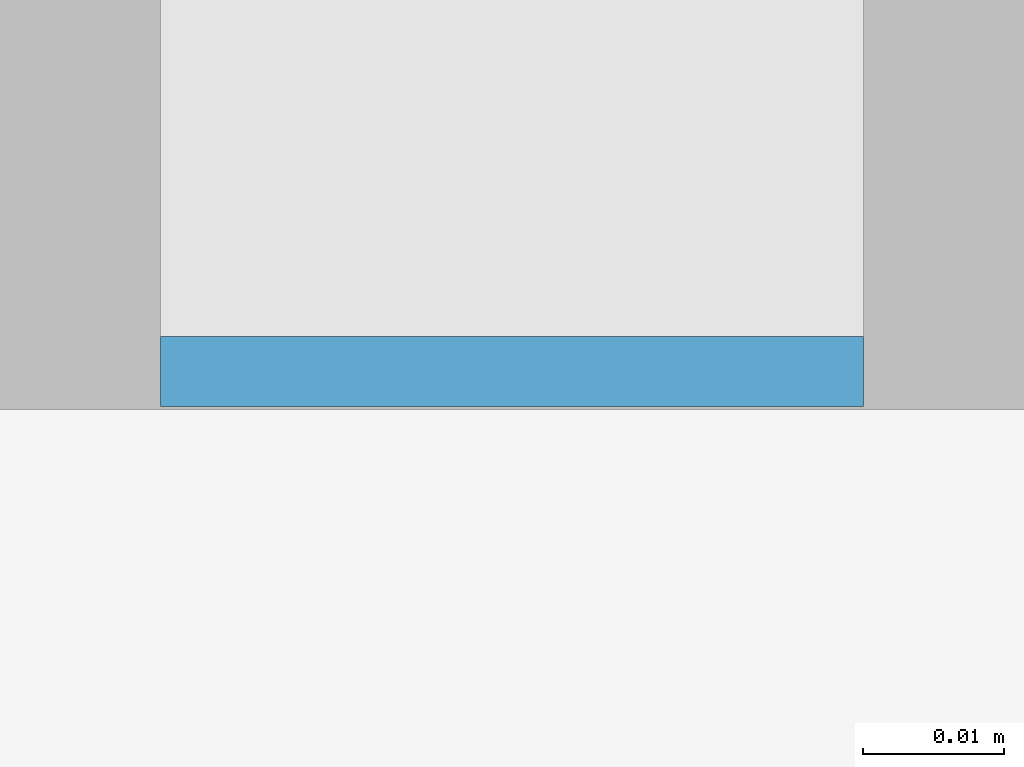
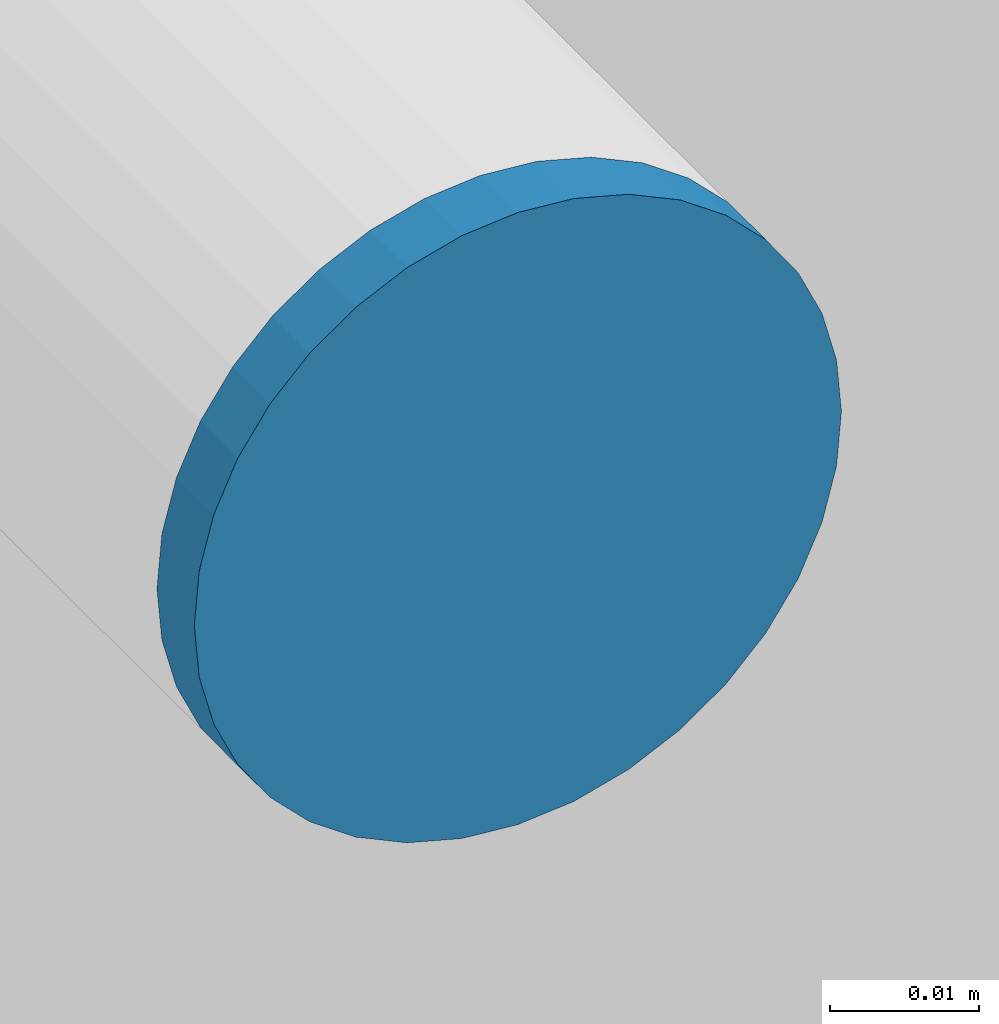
# One storey, part 36 of 347: 1 member, 1 element without a shape of its own.
"""IFC2X3 building model written with IfcOpenShell, lengths in millimetres."""

import ifcopenshell
import ifcopenshell.guid

model = None  # the IFC model being written
_history = None  # IfcOwnerHistory: only IFC2X3 demands one
_inside = {}  # id of a spatial element -> (the spatial element, [elements in it])
_under = {}  # id of a project, library or spatial element -> (it, [spatial elements below it])
_declared = {}  # id of a project -> (the project, [libraries it declares])
_typed = {}  # id of a type object -> (the type object, [elements of that type])
_made_of = {}  # id of a material, layer set ... -> (it, [elements and type objects made of it])


def new_model(schema):
    """Start an empty IFC model of exactly this schema.

    Asked for "IFC4X3", IfcOpenShell would pick the latest addendum, in which some entities
    have other attributes; the version numbers below select the first issue.
    IFC2X3 requires an IfcOwnerHistory on every rooted entity: one is made here for all.
    """
    global model, _history
    if schema == "IFC4X3":
        model = ifcopenshell.file(schema_version=(4, 3, 0, 0))
    else:
        model = ifcopenshell.file(schema=schema)
    _inside.clear()
    _under.clear()
    _declared.clear()
    _typed.clear()
    _made_of.clear()
    _history = None
    if model.schema == "IFC2X3":
        org = make("IfcOrganization", Name="unknown")
        user = make(
            "IfcPersonAndOrganization",
            ThePerson=make("IfcPerson", FamilyName="unknown"),
            TheOrganization=org,
        )
        app = make(
            "IfcApplication",
            ApplicationDeveloper=org,
            Version="unknown",
            ApplicationFullName="unknown",
            ApplicationIdentifier="unknown",
        )
        _history = make(
            "IfcOwnerHistory",
            OwningUser=user,
            OwningApplication=app,
            ChangeAction="ADDED",
            CreationDate=0,
        )
    return model


def make(cls, **values):
    """One entity of the class cls with the attributes given. An attribute that is None is left unset."""
    return model.create_entity(
        cls, **{name: value for name, value in values.items() if value is not None}
    )


def entity(cls, *values):
    """Any entity or typed value of the class cls, its attributes in the order of the schema. None: left unset."""
    e = model.create_entity(cls)
    for i, value in enumerate(values):
        if value is not None:
            e[i] = value
    return e


def rooted(cls, **values):
    """An entity with a GlobalId (a new one), such as an element, a storey or a relation."""
    return make(cls, GlobalId=ifcopenshell.guid.new(), OwnerHistory=_history, **values)


def si_unit(unit_type, name, prefix=None):
    """IfcSIUnit, for example si_unit("LENGTHUNIT", "METRE", prefix="MILLI")."""
    return make("IfcSIUnit", UnitType=unit_type, Prefix=prefix, Name=name)


def converted_unit(unit_type, name, factor, base, dimensions=None, offset=None):
    """IfcConversionBasedUnit, such as the inch: factor (a typed value) times the base unit."""
    return make(
        "IfcConversionBasedUnit"
        if offset is None
        else "IfcConversionBasedUnitWithOffset",
        ConversionOffset=offset,
        Dimensions=None
        if dimensions is None
        else entity("IfcDimensionalExponents", *dimensions),
        UnitType=unit_type,
        Name=name,
        ConversionFactor=make(
            "IfcMeasureWithUnit", ValueComponent=factor, UnitComponent=base
        ),
    )


def derived_unit(unit_type, elements):
    """IfcDerivedUnit: a product of units, each with its exponent."""
    return make(
        "IfcDerivedUnit",
        Elements=[
            make("IfcDerivedUnitElement", Unit=unit, Exponent=power)
            for unit, power in elements
        ],
        UnitType=unit_type,
    )


def money_unit(currency):
    """IfcMonetaryUnit."""
    return make("IfcMonetaryUnit", Currency=currency)


def assignment(units):
    """IfcUnitAssignment: the units of a project."""
    return None if units is None else make("IfcUnitAssignment", Units=units)


def point(xyz):
    """IfcCartesianPoint."""
    return None if xyz is None else make("IfcCartesianPoint", Coordinates=xyz)


def direction(xyz):
    """IfcDirection."""
    return None if xyz is None else make("IfcDirection", DirectionRatios=xyz)


def frame(location, z_axis=None, x_axis=None):
    """IfcAxis2Placement3D, a coordinate frame: its origin and axes. An axis left out is left unset."""
    return make(
        "IfcAxis2Placement3D",
        Location=point(location),
        Axis=direction(z_axis),
        RefDirection=direction(x_axis),
    )


def origin_with_axes():
    """The frame at (0, 0, 0) with the z axis (0, 0, 1) and the x axis (1, 0, 0) written out."""
    return frame((0.0, 0.0, 0.0), z_axis=(0.0, 0.0, 1.0), x_axis=(1.0, 0.0, 0.0))


def place(relative_to, where):
    """IfcLocalPlacement: puts the frame where relative to a parent placement (None: the world)."""
    return make(
        "IfcLocalPlacement", PlacementRelTo=relative_to, RelativePlacement=where
    )


def context(
    kind, dimensions, precision=None, world=None, true_north=None, identifier=None
):
    """IfcGeometricRepresentationContext, for example the 3D "Model" context."""
    return make(
        "IfcGeometricRepresentationContext",
        ContextIdentifier=identifier,
        ContextType=kind,
        CoordinateSpaceDimension=dimensions,
        Precision=precision,
        WorldCoordinateSystem=world,
        TrueNorth=true_north,
    )


def subcontext(parent, identifier, kind, view, scale=None):
    """IfcGeometricRepresentationSubContext, for example "Body" below "Model"."""
    return make(
        "IfcGeometricRepresentationSubContext",
        ContextIdentifier=identifier,
        ContextType=kind,
        ParentContext=parent,
        TargetScale=scale,
        TargetView=view,
    )


def project(units=None, contexts=None):
    """IfcProject with its units and contexts."""
    return rooted(
        "IfcProject",
        Name="project",
        RepresentationContexts=contexts,
        UnitsInContext=assignment(units),
    )


def spatial(cls, under=None, at=None, **own):
    """A site, building, storey or space (cls), placed at a placement, below another one or the project."""
    s = rooted(cls, ObjectPlacement=at, **own)
    if under is not None:
        _under.setdefault(under.id(), (under, []))[1].append(s)
    return s


def faces_of(points, faces, orient=None, outer=None):
    """IfcFace entities. A face is a list of loops; a loop is a list of indices into points, from 0.

    orient and outer hold one flag for each loop. By default every Orientation is true, the
    first loop of a face is its IfcFaceOuterBound and the others are IfcFaceBound.
    """
    made = []
    for i, loops in enumerate(faces):
        bounds = []
        for j, loop in enumerate(loops):
            is_outer = j == 0 if outer is None else outer[i][j]
            bounds.append(
                make(
                    "IfcFaceOuterBound" if is_outer else "IfcFaceBound",
                    Bound=make("IfcPolyLoop", Polygon=[points[k] for k in loop]),
                    Orientation=True if orient is None else orient[i][j],
                )
            )
        made.append(make("IfcFace", Bounds=bounds))
    return made


def faceted_brep(points, faces, orient=None, outer=None, voids=None):
    """IfcFacetedBrep: a solid bounded by flat faces; with voids (closed shells), ...WithVoids."""
    shared = [point(p) for p in points]
    hull = make("IfcClosedShell", CfsFaces=faces_of(shared, faces, orient, outer))
    if voids is None:
        return make("IfcFacetedBrep", Outer=hull)
    return make(
        "IfcFacetedBrepWithVoids",
        Outer=hull,
        Voids=[
            make(cls, CfsFaces=faces_of(shared, fs, o, b)) for cls, fs, o, b in voids
        ],
    )


def shape(context_of_items, identifier, shape_type, items):
    """IfcShapeRepresentation: the items that make up one representation, for example the "Body"."""
    return make(
        "IfcShapeRepresentation",
        ContextOfItems=context_of_items,
        RepresentationIdentifier=identifier,
        RepresentationType=shape_type,
        Items=items,
    )


def material(Name=None, Category=None):
    """IfcMaterial."""
    return make("IfcMaterial", Name=Name, Category=Category)


def made_of(thing, what):
    """Note that an element or type object is made of a material, layer set ...; save() writes the relation."""
    if what is not None:
        _made_of.setdefault(what.id(), (what, []))[1].append(thing)
    return thing


def type_object(cls, material=None, **own):
    """A type object (cls), such as IfcWallType, which elements share."""
    return made_of(rooted(cls, **own), material)


def element(
    cls,
    number,
    at=None,
    inside=None,
    cuts=None,
    type_object=None,
    material=None,
    context=None,
    identifier="Body",
    shape_type=None,
    held_by="IfcProductDefinitionShape",
    body=None,
    shapes=None,
    **own,
):
    """One element of the class cls, such as IfcWall. Its Tag is "e" and its number.

    at: its placement. inside: the storey or other place that contains it. cuts: it is an
    opening in that element (IfcRelVoidsElement). A single representation is given by context,
    identifier, shape_type and body (its items); several are given by shapes. held_by: the class
    of the entity that holds the representations. save() writes the other relations.
    """
    e = rooted(cls, Tag="e%d" % number, ObjectPlacement=at, **own)
    if body is not None:
        shapes = [shape(context, identifier, shape_type, body)]
    if shapes is not None:
        e.Representation = make(held_by, Representations=shapes)
    if inside is not None:
        _inside.setdefault(inside.id(), (inside, []))[1].append(e)
    if cuts is not None:
        rooted(
            "IfcRelVoidsElement", RelatingBuildingElement=cuts, RelatedOpeningElement=e
        )
    if type_object is not None:
        _typed.setdefault(type_object.id(), (type_object, []))[1].append(e)
    return made_of(e, material)


def aggregate(whole, parts):
    """IfcRelAggregates: a whole, such as a stair, and the parts it consists of."""
    return rooted("IfcRelAggregates", RelatingObject=whole, RelatedObjects=parts)


def save(model, path):
    """Write the relations noted so far, then the file.

    IfcRelAggregates (storeys below a building ...), IfcRelContainedInSpatialStructure (elements
    in a storey), IfcRelDefinesByType, IfcRelAssociatesMaterial and IfcRelDeclares: one each for
    every whole, place, type object, material and project.
    """
    for whole, parts in _under.values():
        aggregate(whole, parts)
    for where, things in _inside.values():
        rooted(
            "IfcRelContainedInSpatialStructure",
            RelatedElements=things,
            RelatingStructure=where,
        )
    for kind, things in _typed.values():
        rooted("IfcRelDefinesByType", RelatedObjects=things, RelatingType=kind)
    for what, things in _made_of.values():
        rooted("IfcRelAssociatesMaterial", RelatedObjects=things, RelatingMaterial=what)
    for by, libraries in _declared.values():
        rooted("IfcRelDeclares", RelatingContext=by, RelatedDefinitions=libraries)
    model.write(path)


model = new_model("IFC2X3")

# Units and contexts
model_context = context("Model", 3, precision=0.01, world=origin_with_axes(), true_north=direction((0.0, 1.0)))
plan_context = context("Plan", 3, precision=0.01, world=origin_with_axes(), true_north=direction((0.0, 1.0)))
body_context = subcontext(model_context, "Body", "Model", "MODEL_VIEW")
ifc_project = project(units=[si_unit("LENGTHUNIT", "METRE", prefix="MILLI"), si_unit("AREAUNIT", "SQUARE_METRE"), si_unit("VOLUMEUNIT", "CUBIC_METRE"), converted_unit("PLANEANGLEUNIT", "DEGREE", entity("IfcPlaneAngleMeasure", 0.0174532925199), si_unit("PLANEANGLEUNIT", "RADIAN"), dimensions=[0, 0, 0, 0, 0, 0, 0]), money_unit("EUR"), converted_unit("TIMEUNIT", "Year", entity("IfcTimeMeasure", 31556926.0), si_unit("TIMEUNIT", "SECOND"), dimensions=[0, 0, 1, 0, 0, 0, 0]), si_unit("MASSUNIT", "GRAM", prefix="KILO"), si_unit("THERMODYNAMICTEMPERATUREUNIT", "DEGREE_CELSIUS"), si_unit("LUMINOUSINTENSITYUNIT", "LUMEN"), si_unit("ENERGYUNIT", "JOULE", prefix="MEGA"), derived_unit("THERMALCONDUCTANCEUNIT", [(si_unit("POWERUNIT", "WATT"), 1), (si_unit("LENGTHUNIT", "METRE"), -1), (si_unit("THERMODYNAMICTEMPERATUREUNIT", "KELVIN"), -1)]), derived_unit("SPECIFICHEATCAPACITYUNIT", [(si_unit("ENERGYUNIT", "JOULE"), 1), (si_unit("MASSUNIT", "GRAM", prefix="KILO"), -1), (si_unit("THERMODYNAMICTEMPERATUREUNIT", "KELVIN"), -1)]), derived_unit("MASSDENSITYUNIT", [(si_unit("MASSUNIT", "GRAM", prefix="KILO"), 1), (si_unit("VOLUMEUNIT", "CUBIC_METRE"), -1)])], contexts=[model_context, plan_context])

# Site, building, storey
site_placement = place(None, origin_with_axes())
site = spatial("IfcSite", under=ifc_project, at=site_placement, Name="Site", CompositionType="ELEMENT")
building_placement = place(site_placement, origin_with_axes())
building = spatial("IfcBuilding", under=site, at=building_placement, Name="Naam gebouw", CompositionType="ELEMENT")
storey_placement = place(building_placement, origin_with_axes())
storey = spatial("IfcBuildingStorey", under=building, at=storey_placement, Name="begane grond", CompositionType="ELEMENT", Elevation=0.0)

# Railing, member
railing_type = type_object("IfcRailingType", Name="Railing Type", PredefinedType="NOTDEFINED")
railing_placement = place(storey_placement, frame((41575.0, 36499.9999823, 72.0000018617), z_axis=(0.0, 0.0, 1.0), x_axis=(1.0, 0.0, 0.0)))
railing = element("IfcRailing", 1, at=railing_placement, inside=storey, type_object=railing_type, Name="_Reling-x", PredefinedType="NOTDEFINED")
ifc_material = material(Name="Hout AFW")
member_type = type_object("IfcMemberType", Name="IfcMember", PredefinedType="USERDEFINED")
member_placement = place(railing_placement, origin_with_axes())
member = element("IfcMember", 2, at=member_placement, type_object=member_type, material=ifc_material, Name="_Einde handregel-x", context=body_context, shape_type="Brep", body=[
    faceted_brep([(-50.0, -6419.78069901, 4762.99999814), (-50.3798061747, -6419.78069901, 4767.34120258), (-50.3798061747, -6424.78069901, 4767.34120258), (-50.0, -6424.78069901, 4762.99999814), (-50.3798061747, -6419.78069901, 4758.6587937), (-51.5076844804, -6419.78069901, 4754.44949456), (-53.3493649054, -6419.78069901, 4750.49999814), (-55.848888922, -6419.78069901, 4746.9303079), (-58.9303097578, -6419.78069901, 4743.84888706), (-62.5, -6419.78069901, 4741.34936304), (-66.4494964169, -6419.78069901, 4739.50768262), (-70.6587955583, -6419.78069901, 4738.37980431), (-75.0, -6419.78069901, 4737.99999814), (-79.3412044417, -6419.78069901, 4738.37980431), (-83.5505035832, -6419.78069901, 4739.50768262), (-87.5, -6419.78069901, 4741.34936304), (-91.0696902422, -6419.78069901, 4743.84888706), (-94.151111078, -6419.78069901, 4746.9303079), (-96.6506350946, -6419.78069901, 4750.49999814), (-98.4923155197, -6419.78069901, 4754.44949456), (-99.6201938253, -6419.78069901, 4758.6587937), (-100.0, -6419.78069901, 4762.99999814), (-99.6201938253, -6419.78069901, 4767.34120258), (-98.4923155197, -6419.78069901, 4771.55050172), (-96.6506350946, -6419.78069901, 4775.49999814), (-94.151111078, -6419.78069901, 4779.06968838), (-91.0696902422, -6419.78069901, 4782.15110922), (-87.5, -6419.78069901, 4784.65063323), (-83.5505035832, -6419.78069901, 4786.49231366), (-79.3412044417, -6419.78069901, 4787.62019196), (-75.0, -6419.78069901, 4787.99999814), (-70.6587955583, -6419.78069901, 4787.62019196), (-66.4494964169, -6419.78069901, 4786.49231366), (-62.5, -6419.78069901, 4784.65063323), (-58.9303097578, -6419.78069901, 4782.15110922), (-55.848888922, -6419.78069901, 4779.06968838), (-53.3493649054, -6419.78069901, 4775.49999814), (-51.5076844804, -6419.78069901, 4771.55050172), (-51.5076844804, -6424.78069901, 4771.55050172), (-53.3493649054, -6424.78069901, 4775.49999814), (-55.848888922, -6424.78069901, 4779.06968838), (-58.9303097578, -6424.78069901, 4782.15110922), (-62.5, -6424.78069901, 4784.65063323), (-66.4494964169, -6424.78069901, 4786.49231366), (-70.6587955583, -6424.78069901, 4787.62019196), (-75.0, -6424.78069901, 4787.99999814), (-79.3412044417, -6424.78069901, 4787.62019196), (-83.5505035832, -6424.78069901, 4786.49231366), (-87.5, -6424.78069901, 4784.65063323), (-91.0696902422, -6424.78069901, 4782.15110922), (-94.151111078, -6424.78069901, 4779.06968838), (-96.6506350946, -6424.78069901, 4775.49999814), (-98.4923155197, -6424.78069901, 4771.55050172), (-99.6201938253, -6424.78069901, 4767.34120258), (-100.0, -6424.78069901, 4762.99999814), (-99.6201938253, -6424.78069901, 4758.6587937), (-98.4923155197, -6424.78069901, 4754.44949456), (-96.6506350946, -6424.78069901, 4750.49999814), (-94.151111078, -6424.78069901, 4746.9303079), (-91.0696902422, -6424.78069901, 4743.84888706), (-87.5, -6424.78069901, 4741.34936304), (-83.5505035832, -6424.78069901, 4739.50768262), (-79.3412044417, -6424.78069901, 4738.37980431), (-75.0, -6424.78069901, 4737.99999814), (-70.6587955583, -6424.78069901, 4738.37980431), (-66.4494964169, -6424.78069901, 4739.50768262), (-62.5, -6424.78069901, 4741.34936304), (-58.9303097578, -6424.78069901, 4743.84888706), (-55.848888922, -6424.78069901, 4746.9303079), (-53.3493649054, -6424.78069901, 4750.49999814), (-51.5076844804, -6424.78069901, 4754.44949456), (-50.3798061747, -6424.78069901, 4758.6587937)], [[[0, 1, 2, 3]], [[0, 4, 5, 6, 7, 8, 9, 10, 11, 12, 13, 14, 15, 16, 17, 18, 19, 20, 21, 22, 23, 24, 25, 26, 27, 28, 29, 30, 31, 32, 33, 34, 35, 36, 37, 1]], [[1, 37, 38, 2]], [[3, 2, 38, 39, 40, 41, 42, 43, 44, 45, 46, 47, 48, 49, 50, 51, 52, 53, 54, 55, 56, 57, 58, 59, 60, 61, 62, 63, 64, 65, 66, 67, 68, 69, 70, 71]], [[4, 0, 3, 71]], [[5, 4, 71, 70]], [[6, 5, 70, 69]], [[7, 6, 69, 68]], [[8, 7, 68, 67]], [[9, 8, 67, 66]], [[10, 9, 66, 65]], [[11, 10, 65, 64]], [[12, 11, 64, 63]], [[13, 12, 63, 62]], [[14, 13, 62, 61]], [[15, 14, 61, 60]], [[16, 15, 60, 59]], [[17, 16, 59, 58]], [[18, 17, 58, 57]], [[19, 18, 57, 56]], [[20, 19, 56, 55]], [[21, 20, 55, 54]], [[22, 21, 54, 53]], [[23, 22, 53, 52]], [[24, 23, 52, 51]], [[25, 24, 51, 50]], [[26, 25, 50, 49]], [[27, 26, 49, 48]], [[28, 27, 48, 47]], [[29, 28, 47, 46]], [[30, 29, 46, 45]], [[31, 30, 45, 44]], [[32, 31, 44, 43]], [[33, 32, 43, 42]], [[34, 33, 42, 41]], [[35, 34, 41, 40]], [[36, 35, 40, 39]], [[37, 36, 39, 38]]]),
])
aggregate(railing, [member])

save(model, "model.ifc")
